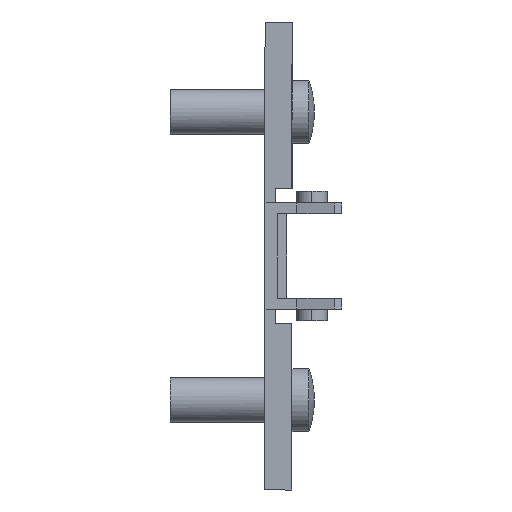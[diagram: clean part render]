
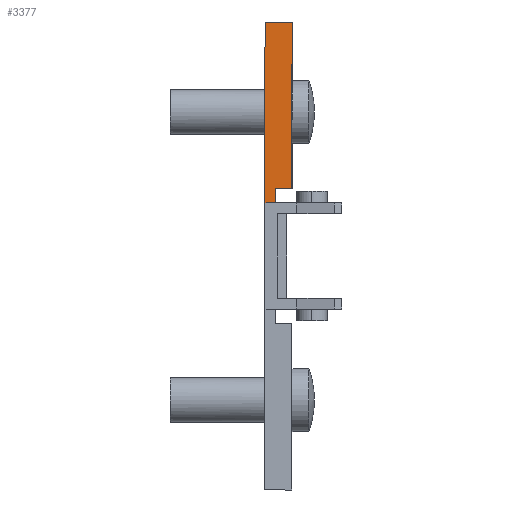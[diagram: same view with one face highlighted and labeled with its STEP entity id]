
A CAD part, front view. The second image highlights one B-rep face of the part: STEP entity #3377.
In plain terms, the highlighted planar face has unit normal (0, -1, 0).
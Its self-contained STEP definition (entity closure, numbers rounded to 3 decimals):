
#86 = CARTESIAN_POINT ( 'NONE',  ( 3., -9., 26. ) ) ;
#96 = DIRECTION ( 'NONE',  ( 0., 0., -1. ) ) ;
#103 = CARTESIAN_POINT ( 'NONE',  ( 1.2, -9., 7.5 ) ) ;
#104 = DIRECTION ( 'NONE',  ( 0., 0., -1. ) ) ;
#179 = CARTESIAN_POINT ( 'NONE',  ( 3., -9., 7.5 ) ) ;
#180 = DIRECTION ( 'NONE',  ( -1., 0., 0. ) ) ;
#254 = CARTESIAN_POINT ( 'NONE',  ( 0., -9., 5.9 ) ) ;
#255 = DIRECTION ( 'NONE',  ( -1., 0., 0. ) ) ;
#387 = CARTESIAN_POINT ( 'NONE',  ( 0., -9., 5.9 ) ) ;
#394 = CARTESIAN_POINT ( 'NONE',  ( 0., -9., 26. ) ) ;
#500 = CARTESIAN_POINT ( 'NONE',  ( 3., -9., 26. ) ) ;
#504 = CARTESIAN_POINT ( 'NONE',  ( 3., -9., 7.5 ) ) ;
#552 = CARTESIAN_POINT ( 'NONE',  ( 1.2, -9., 5.9 ) ) ;
#553 = CARTESIAN_POINT ( 'NONE',  ( 1.2, -9., 7.5 ) ) ;
#576 = PLANE ( 'NONE',  #2002 ) ;
#579 = CARTESIAN_POINT ( 'NONE',  ( 0., -9., 5. ) ) ;
#585 = DIRECTION ( 'NONE',  ( 0., 1., 0. ) ) ;
#586 = DIRECTION ( 'NONE',  ( 0., 0., 1. ) ) ;
#1008 = VECTOR ( 'NONE', #2523, 1000. ) ;
#1009 = LINE ( 'NONE', #2522, #1008 ) ;
#1120 = VECTOR ( 'NONE', #3346, 1000. ) ;
#1129 = LINE ( 'NONE', #3343, #1120 ) ;
#1280 = LINE ( 'NONE', #179, #1281 ) ;
#1281 = VECTOR ( 'NONE', #180, 1000. ) ;
#1328 = LINE ( 'NONE', #254, #1333 ) ;
#1333 = VECTOR ( 'NONE', #255, 1000. ) ;
#1436 = FACE_OUTER_BOUND ( 'NONE', #1841, .T. ) ;
#1548 = LINE ( 'NONE', #103, #1594 ) ;
#1587 = LINE ( 'NONE', #86, #1588 ) ;
#1588 = VECTOR ( 'NONE', #96, 1000. ) ;
#1594 = VECTOR ( 'NONE', #104, 1000. ) ;
#1841 = EDGE_LOOP ( 'NONE', ( #3466, #3467, #3468, #3469, #3470, #3471 ) ) ;
#1933 = EDGE_CURVE ( 'NONE', #3022, #3128, #1129, .T. ) ;
#2002 = AXIS2_PLACEMENT_3D ( 'NONE', #579, #585, #586 ) ;
#2050 = EDGE_CURVE ( 'NONE', #3015, #3022, #1009, .T. ) ;
#2188 = EDGE_CURVE ( 'NONE', #3128, #3132, #1587, .T. ) ;
#2192 = EDGE_CURVE ( 'NONE', #3181, #3180, #1548, .T. ) ;
#2256 = EDGE_CURVE ( 'NONE', #3132, #3181, #1280, .T. ) ;
#2304 = EDGE_CURVE ( 'NONE', #3180, #3015, #1328, .T. ) ;
#2522 = CARTESIAN_POINT ( 'NONE',  ( 0., -9., 5. ) ) ;
#2523 = DIRECTION ( 'NONE',  ( 0., 0., 1. ) ) ;
#3015 = VERTEX_POINT ( 'NONE', #387 ) ;
#3022 = VERTEX_POINT ( 'NONE', #394 ) ;
#3128 = VERTEX_POINT ( 'NONE', #500 ) ;
#3132 = VERTEX_POINT ( 'NONE', #504 ) ;
#3180 = VERTEX_POINT ( 'NONE', #552 ) ;
#3181 = VERTEX_POINT ( 'NONE', #553 ) ;
#3343 = CARTESIAN_POINT ( 'NONE',  ( 0., -9., 26. ) ) ;
#3346 = DIRECTION ( 'NONE',  ( 1., 0., 0. ) ) ;
#3377 = ADVANCED_FACE ( 'NONE', ( #1436 ), #576, .F. ) ;
#3466 = ORIENTED_EDGE ( 'NONE', *, *, #2050, .F. ) ;
#3467 = ORIENTED_EDGE ( 'NONE', *, *, #2304, .F. ) ;
#3468 = ORIENTED_EDGE ( 'NONE', *, *, #2192, .F. ) ;
#3469 = ORIENTED_EDGE ( 'NONE', *, *, #2256, .F. ) ;
#3470 = ORIENTED_EDGE ( 'NONE', *, *, #2188, .F. ) ;
#3471 = ORIENTED_EDGE ( 'NONE', *, *, #1933, .F. ) ;
